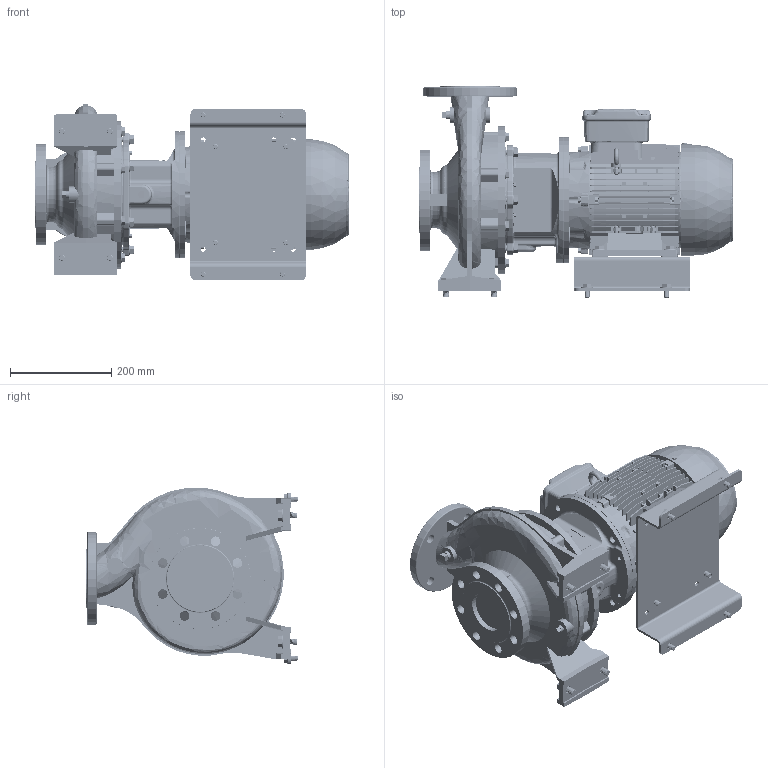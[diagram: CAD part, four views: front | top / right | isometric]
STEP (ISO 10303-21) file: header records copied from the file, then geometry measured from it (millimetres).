
FILE_DESCRIPTION (( 'STEP AP214' ), '1' );
FILE_NAME ('GSD4 65-200_4.0_(112M)_W21.STEP', '2026-07-01T01:41:10', ( '' ), ( '' ), 'SwSTEP 2.0', 'SolidWorks 2024', '' );
FILE_SCHEMA (( 'AUTOMOTIVE_DESIGN' ));
Length unit declared in the file: millimetre
Products named in the file (12): Parametric Flat Washer_M10; Parametric bolt and washer_SFT-A299B; Parametric bolt and washer_SFT-A249B; 140_178 x 68 BP - 271472191; Parametric bolt and washer_SFT-A253B; 65-200-112M_ﾃﾞﾌｫﾙﾄ; Parametric bolt_SFT-A249B; Parametric Flat Washer_M12; 112M ALIE3_W21T_B35; Parametric bolt_SFT-A253B; Parametric bolt_SFT-A299B; GSD4 65-200_4.0_(112M)_W21
Assembly tree (21 placements, depth 3):
  GSD4 65-200_4.0_(112M)_W21
    65-200-112M_ﾃﾞﾌｫﾙﾄ
    112M ALIE3_W21T_B35
    140_178 x 68 BP - 271472191
    Parametric bolt and washer_SFT-A249B  x4
      Parametric bolt_SFT-A249B
      Parametric Flat Washer_M10
    Parametric bolt and washer_SFT-A253B  x4
      Parametric bolt_SFT-A253B
      Parametric Flat Washer_M10
    Parametric bolt and washer_SFT-A299B  x4
      Parametric bolt_SFT-A299B
      Parametric Flat Washer_M12
Bounding box: 620.1 x 418 x 350.11 mm (x, y, z)
Volume: 22190570.2 mm3; surface area: 1789255.5 mm2
Topology: 37 solids, 39 shells, 5342 faces, 14208 edges, 9231 vertices
Faces by surface type: plane 2736, cylinder 1310, bspline 497, cone 414, torus 374, sphere 11
Entity records: 215834 total; most frequent: CARTESIAN_POINT 100817, ORIENTED_EDGE 25804, DIRECTION 20930, EDGE_CURVE 12902, VERTEX_POINT 8391, VECTOR 7160, LINE 7160, AXIS2_PLACEMENT_3D 6885
